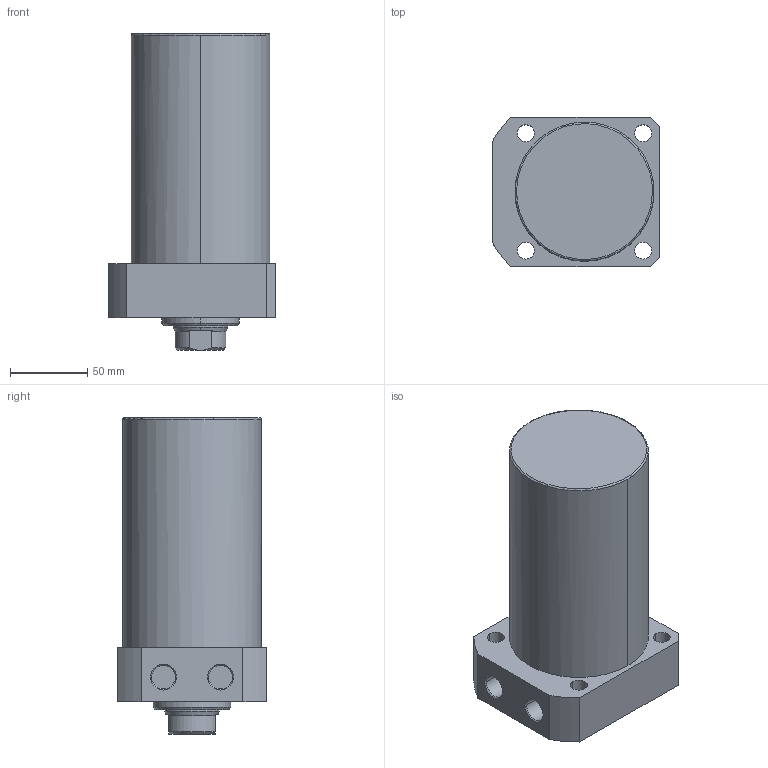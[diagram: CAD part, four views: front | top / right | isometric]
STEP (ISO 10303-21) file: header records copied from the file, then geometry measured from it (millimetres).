
FILE_DESCRIPTION((' '),'2;1');
FILE_NAME( 'TLLR-090CA-105.STEP.stp', '2025-10-24T16:35:18', (' '), ('--- Datakit www.datakit.com---'), ' Datakit CrossCadWare V2024.1 Dec 21 2023', 'Mastercam 2025', ' ');
FILE_SCHEMA(('AUTOMOTIVE_DESIGN { 1 0 10303 214 1 1 1 1 }'));
Length unit declared in the file: millimetre
Products named in the file (1): TLLR-090CA-105
Bounding box: 108 x 97 x 205 mm (x, y, z)
Volume: 1296802.5 mm3; surface area: 87216.2 mm2
Topology: 1 solids, 1 shells, 63 faces, 177 edges, 122 vertices
Faces by surface type: cylinder 28, plane 19, cone 14, torus 2
Entity records: 2172 total; most frequent: CARTESIAN_POINT 409, DIRECTION 400, ORIENTED_EDGE 350, EDGE_CURVE 175, AXIS2_PLACEMENT_3D 169, VERTEX_POINT 122, CIRCLE 105, EDGE_LOOP 79
